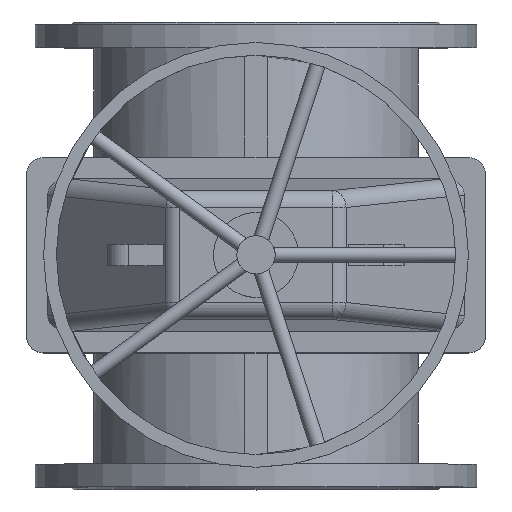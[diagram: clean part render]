
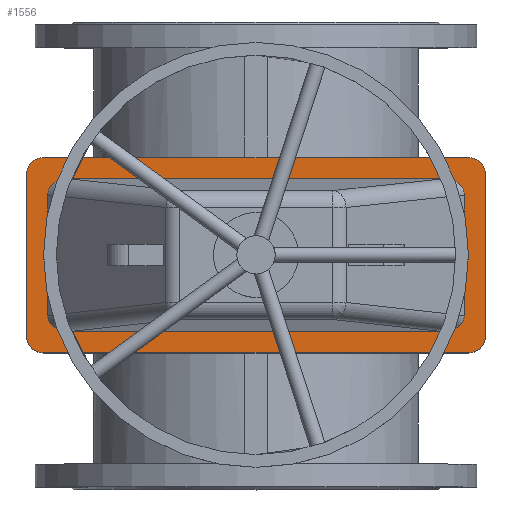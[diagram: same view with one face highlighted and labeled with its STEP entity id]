
A CAD part, top view. The second image highlights one B-rep face of the part: STEP entity #1556.
In plain terms, the highlighted planar face has unit normal (0, 0, 1).
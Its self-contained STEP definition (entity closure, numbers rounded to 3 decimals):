
#1556=ADVANCED_FACE('',(#4014,#4016),#4018,.T.);
#4014=FACE_BOUND('',#4015,.T.);
#4015=EDGE_LOOP('',(#5445,#5446,#5447,#5448,#5449,#5450,#5451,#5452));
#4016=FACE_BOUND('',#4017,.T.);
#4017=EDGE_LOOP('',(#5453,#5454,#5455,#5456,#5457,#5458,#5459,#5460));
#4018=PLANE('',#4019);
#4019=AXIS2_PLACEMENT_3D('',#4020,#4021,#4022);
#4020=CARTESIAN_POINT('',(0.,0.,496.));
#4021=DIRECTION('',(0.,-0.,1.));
#4022=DIRECTION('',(0.,1.,0.));
#5445=ORIENTED_EDGE('',*,*,#6008,.F.);
#5446=ORIENTED_EDGE('',*,*,#6021,.T.);
#5447=ORIENTED_EDGE('',*,*,#6020,.F.);
#5448=ORIENTED_EDGE('',*,*,#6018,.T.);
#5449=ORIENTED_EDGE('',*,*,#6016,.F.);
#5450=ORIENTED_EDGE('',*,*,#6014,.T.);
#5451=ORIENTED_EDGE('',*,*,#6012,.F.);
#5452=ORIENTED_EDGE('',*,*,#6009,.T.);
#5453=ORIENTED_EDGE('',*,*,#6022,.F.);
#5454=ORIENTED_EDGE('',*,*,#6023,.F.);
#5455=ORIENTED_EDGE('',*,*,#6024,.F.);
#5456=ORIENTED_EDGE('',*,*,#6025,.F.);
#5457=ORIENTED_EDGE('',*,*,#6026,.F.);
#5458=ORIENTED_EDGE('',*,*,#6027,.F.);
#5459=ORIENTED_EDGE('',*,*,#6028,.F.);
#5460=ORIENTED_EDGE('',*,*,#6029,.F.);
#6008=EDGE_CURVE('',#6757,#6755,#6759,.F.);
#6009=EDGE_CURVE('',#6760,#6755,#6761,.T.);
#6012=EDGE_CURVE('',#6760,#6763,#6765,.F.);
#6014=EDGE_CURVE('',#6766,#6763,#6768,.T.);
#6016=EDGE_CURVE('',#6766,#6769,#6771,.F.);
#6018=EDGE_CURVE('',#6772,#6769,#6774,.T.);
#6020=EDGE_CURVE('',#6772,#6775,#6777,.F.);
#6021=EDGE_CURVE('',#6757,#6775,#6778,.T.);
#6022=EDGE_CURVE('',#6779,#6780,#6781,.F.);
#6023=EDGE_CURVE('',#6782,#6779,#6783,.T.);
#6024=EDGE_CURVE('',#6784,#6782,#6785,.T.);
#6025=EDGE_CURVE('',#6786,#6784,#6787,.T.);
#6026=EDGE_CURVE('',#6788,#6786,#6789,.F.);
#6027=EDGE_CURVE('',#6790,#6788,#6791,.T.);
#6028=EDGE_CURVE('',#6792,#6790,#6793,.T.);
#6029=EDGE_CURVE('',#6780,#6792,#6794,.T.);
#6755=VERTEX_POINT('',#8978);
#6757=VERTEX_POINT('',#8982);
#6759=CIRCLE('',#8986,20.);
#6760=VERTEX_POINT('',#8990);
#6761=LINE('',#8991,#8992);
#6763=VERTEX_POINT('',#8997);
#6765=CIRCLE('',#9001,20.);
#6766=VERTEX_POINT('',#9005);
#6768=LINE('',#9009,#9010);
#6769=VERTEX_POINT('',#9012);
#6771=CIRCLE('',#9016,20.);
#6772=VERTEX_POINT('',#9020);
#6774=LINE('',#9024,#9025);
#6775=VERTEX_POINT('',#9027);
#6777=CIRCLE('',#9031,20.);
#6778=LINE('',#9035,#9036);
#6779=VERTEX_POINT('',#9038);
#6780=VERTEX_POINT('',#9039);
#6781=(BOUNDED_CURVE()B_SPLINE_CURVE(3,
(#9040,#9041,#9042,#9043),
.UNSPECIFIED.,.F.,.F.)B_SPLINE_CURVE_WITH_KNOTS((4,4),
(0.,1.),
.UNSPECIFIED.)CURVE()GEOMETRIC_REPRESENTATION_ITEM()RATIONAL_B_SPLINE_CURVE((1.,
0.817,0.817,1.))REPRESENTATION_ITEM(''));
#6782=VERTEX_POINT('',#9044);
#6783=LINE('',#9045,#9046);
#6784=VERTEX_POINT('',#9048);
#6785=(BOUNDED_CURVE()B_SPLINE_CURVE(3,
(#9049,#9050,#9051,#9052),
.UNSPECIFIED.,.F.,.F.)B_SPLINE_CURVE_WITH_KNOTS((4,4),
(0.,1.),
.UNSPECIFIED.)CURVE()GEOMETRIC_REPRESENTATION_ITEM()RATIONAL_B_SPLINE_CURVE((1.,
0.817,0.817,1.))REPRESENTATION_ITEM(''));
#6786=VERTEX_POINT('',#9053);
#6787=LINE('',#9054,#9055);
#6788=VERTEX_POINT('',#9057);
#6789=(BOUNDED_CURVE()B_SPLINE_CURVE(3,
(#9058,#9059,#9060,#9061),
.UNSPECIFIED.,.F.,.F.)B_SPLINE_CURVE_WITH_KNOTS((4,4),
(0.,1.),
.UNSPECIFIED.)CURVE()GEOMETRIC_REPRESENTATION_ITEM()RATIONAL_B_SPLINE_CURVE((1.,
0.817,0.817,1.))REPRESENTATION_ITEM(''));
#6790=VERTEX_POINT('',#9062);
#6791=LINE('',#9063,#9064);
#6792=VERTEX_POINT('',#9066);
#6793=(BOUNDED_CURVE()B_SPLINE_CURVE(3,
(#9067,#9068,#9069,#9070),
.UNSPECIFIED.,.F.,.F.)B_SPLINE_CURVE_WITH_KNOTS((4,4),
(0.,1.),
.UNSPECIFIED.)CURVE()GEOMETRIC_REPRESENTATION_ITEM()RATIONAL_B_SPLINE_CURVE((1.,
0.817,0.817,1.))REPRESENTATION_ITEM(''));
#6794=LINE('',#9071,#9072);
#8978=CARTESIAN_POINT('',(-270.,-95.,496.));
#8982=CARTESIAN_POINT('',(-250.,-115.,496.));
#8986=AXIS2_PLACEMENT_3D('',#8987,#8988,#8989);
#8987=CARTESIAN_POINT('',(-250.,-95.,496.));
#8988=DIRECTION('',(0.,-0.,1.));
#8989=DIRECTION('',(-1.,0.,0.));
#8990=CARTESIAN_POINT('',(-270.,95.,496.));
#8991=CARTESIAN_POINT('',(-270.,95.,496.));
#8992=VECTOR('',#8993,1.);
#8993=DIRECTION('',(0.,-1.,0.));
#8997=CARTESIAN_POINT('',(-250.,115.,496.));
#9001=AXIS2_PLACEMENT_3D('',#9002,#9003,#9004);
#9002=CARTESIAN_POINT('',(-250.,95.,496.));
#9003=DIRECTION('',(0.,-0.,1.));
#9004=DIRECTION('',(0.,1.,0.));
#9005=CARTESIAN_POINT('',(250.,115.,496.));
#9009=CARTESIAN_POINT('',(250.,115.,496.));
#9010=VECTOR('',#9011,1.);
#9011=DIRECTION('',(-1.,0.,0.));
#9012=CARTESIAN_POINT('',(270.,95.,496.));
#9016=AXIS2_PLACEMENT_3D('',#9017,#9018,#9019);
#9017=CARTESIAN_POINT('',(250.,95.,496.));
#9018=DIRECTION('',(0.,-0.,1.));
#9019=DIRECTION('',(1.,0.,0.));
#9020=CARTESIAN_POINT('',(270.,-95.,496.));
#9024=CARTESIAN_POINT('',(270.,-95.,496.));
#9025=VECTOR('',#9026,1.);
#9026=DIRECTION('',(0.,1.,0.));
#9027=CARTESIAN_POINT('',(250.,-115.,496.));
#9031=AXIS2_PLACEMENT_3D('',#9032,#9033,#9034);
#9032=CARTESIAN_POINT('',(250.,-95.,496.));
#9033=DIRECTION('',(0.,-0.,1.));
#9034=DIRECTION('',(0.,-1.,0.));
#9035=CARTESIAN_POINT('',(-250.,-115.,496.));
#9036=VECTOR('',#9037,1.);
#9037=DIRECTION('',(1.,0.,0.));
#9038=CARTESIAN_POINT('',(-245.,-71.021,496.));
#9039=CARTESIAN_POINT('',(-220.722,-90.,496.));
#9040=CARTESIAN_POINT('',(-220.722,-90.,496.));
#9041=CARTESIAN_POINT('',(-235.1,-90.,496.));
#9042=CARTESIAN_POINT('',(-245.,-82.261,496.));
#9043=CARTESIAN_POINT('',(-245.,-71.021,496.));
#9044=CARTESIAN_POINT('',(-245.,71.021,496.));
#9045=CARTESIAN_POINT('',(-245.,71.021,496.));
#9046=VECTOR('',#9047,1.);
#9047=DIRECTION('',(0.,-1.,0.));
#9048=CARTESIAN_POINT('',(-220.722,90.,496.));
#9049=CARTESIAN_POINT('',(-220.722,90.,496.));
#9050=CARTESIAN_POINT('',(-235.1,90.,496.));
#9051=CARTESIAN_POINT('',(-245.,82.261,496.));
#9052=CARTESIAN_POINT('',(-245.,71.021,496.));
#9053=CARTESIAN_POINT('',(220.722,90.,496.));
#9054=CARTESIAN_POINT('',(220.722,90.,496.));
#9055=VECTOR('',#9056,1.);
#9056=DIRECTION('',(-1.,0.,0.));
#9057=CARTESIAN_POINT('',(245.,71.021,496.));
#9058=CARTESIAN_POINT('',(220.722,90.,496.));
#9059=CARTESIAN_POINT('',(235.1,90.,496.));
#9060=CARTESIAN_POINT('',(245.,82.261,496.));
#9061=CARTESIAN_POINT('',(245.,71.021,496.));
#9062=CARTESIAN_POINT('',(245.,-71.021,496.));
#9063=CARTESIAN_POINT('',(245.,-71.021,496.));
#9064=VECTOR('',#9065,1.);
#9065=DIRECTION('',(0.,1.,0.));
#9066=CARTESIAN_POINT('',(220.722,-90.,496.));
#9067=CARTESIAN_POINT('',(220.722,-90.,496.));
#9068=CARTESIAN_POINT('',(235.1,-90.,496.));
#9069=CARTESIAN_POINT('',(245.,-82.261,496.));
#9070=CARTESIAN_POINT('',(245.,-71.021,496.));
#9071=CARTESIAN_POINT('',(-220.722,-90.,496.));
#9072=VECTOR('',#9073,1.);
#9073=DIRECTION('',(1.,0.,0.));
